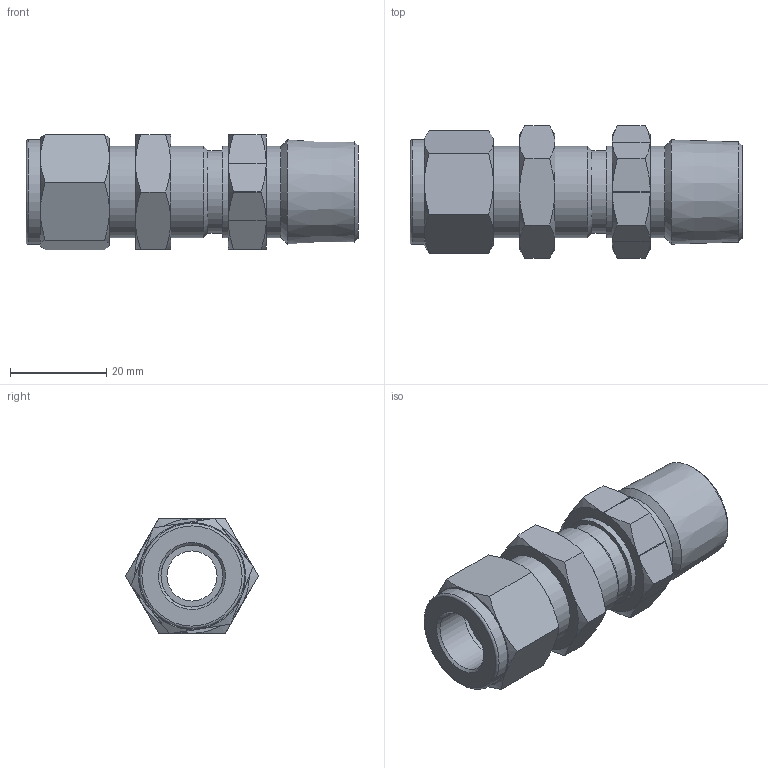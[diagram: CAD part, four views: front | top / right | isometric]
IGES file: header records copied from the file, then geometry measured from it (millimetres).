
Global section: file name: No Iges File Name specified; native system: Autodesk Inventor 2012; preprocessor: AutoDesk Inventor Iges Exporter R2012; author: 硅己绕,, ; organization: 11; date: 20150603.092617; units: millimetre
Bounding box: 68.91 x 27.5 x 23.94 mm (x, y, z)
Volume: 18318.8 mm3; surface area: 10762.3 mm2
Topology: 3 solids, 3 shells, 100 faces, 209 edges, 122 vertices
Faces by surface type: cone 42, plane 37, cylinder 12, revolution 8, torus 1
Full cylindrical faces by diameter (mm): 17.2 x1, 17.3 x1, 19.003 x1, 19.05 x2, 21.8 x1
